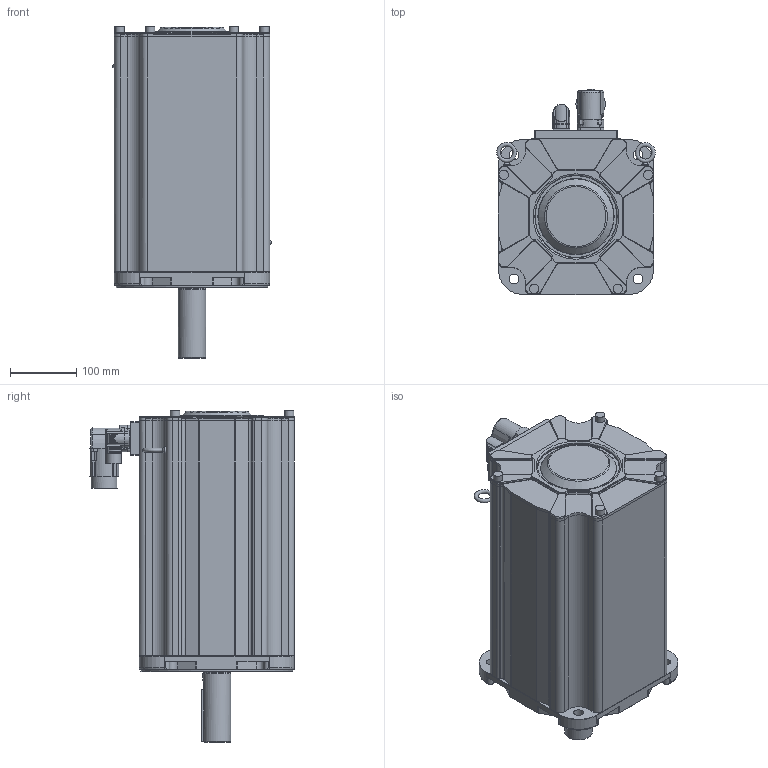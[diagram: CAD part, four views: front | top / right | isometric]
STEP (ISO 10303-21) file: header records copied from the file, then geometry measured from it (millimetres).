
FILE_DESCRIPTION((''),'2;1');
FILE_NAME('C:\CAD_work\Dummy_Modeling_Project_02-12-05\3D MODELS\MPP2306XXX_NPSB.stp','2006-02-03T10:31:56',('jevans'),(''),'Autodesk Inventor 10','Autodesk Inventor 10','');
FILE_SCHEMA(('AUTOMOTIVE_DESIGN { 1 0 10303 214 1 1 1 1 }'));
Length unit declared in the file: inch
Products named in the file (1): MPP230_MOTOR
Bounding box: 240.28 x 310.16 x 502.39 mm (x, y, z)
Volume: 18705106.4 mm3; surface area: 575788.8 mm2
Topology: 1 solids, 3 shells, 920 faces, 2327 edges, 1470 vertices
Faces by surface type: cylinder 392, plane 350, bspline 110, torus 52, cone 16
Full cylindrical faces by diameter (mm): 1.016 x17, 2 x2, 3.6 x4, 14.275 x4, 19.05 x1, 19.685 x1, 22.86 x1, 32.639 x1, 39.624 x1, 41.656 x1, 42.012 x1, 44.907 x1, 45.009 x1, 57.15 x1, 75.024 x1, 80.01 x1, 91.44 x1, 100 x1, 100.018 x1, 100.272 x2, 114.299 x1, 114.3 x1, 124.46 x1, 230.001 x1
Entity records: 31148 total; most frequent: CARTESIAN_POINT 9560, DIRECTION 4559, ORIENTED_EDGE 4422, EDGE_CURVE 2211, AXIS2_PLACEMENT_3D 1755, VERTEX_POINT 1435, EDGE_LOOP 1070, VECTOR 1049
